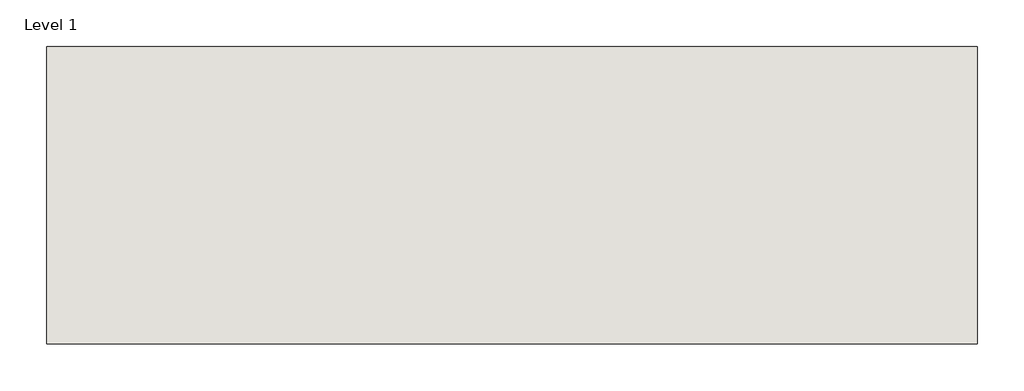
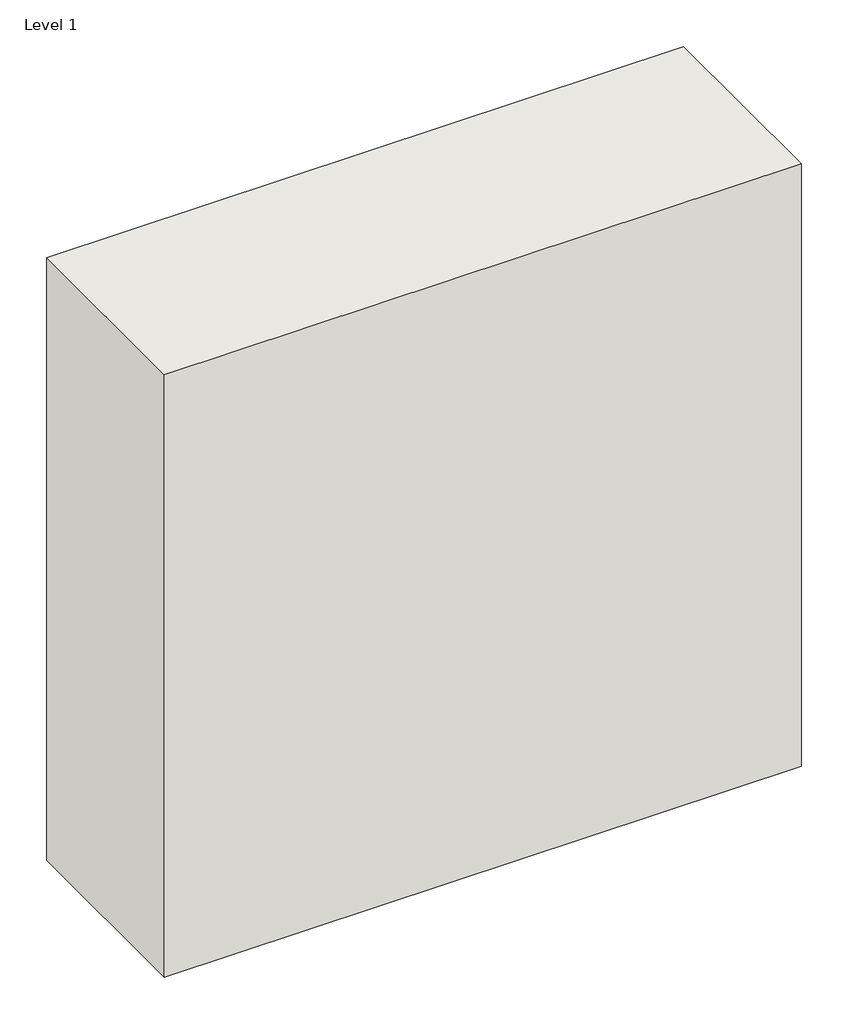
# One storey: 1 wall.
"""IFC4 building model written with IfcOpenShell, lengths in millimetres."""

from ifc_helpers import new_model, si_unit, origin, origin_with_axes, place, context, project, spatial, polyline, outline, extrude, element, save

model = new_model("IFC4")

# Units and contexts
model_context = context("Model", 3, world=origin())
ifc_project = project(units=[si_unit("LENGTHUNIT", "METRE", prefix="MILLI")], contexts=[model_context])

# Site, building, storey
site = spatial("IfcSite", under=ifc_project)
building = spatial("IfcBuilding", under=site)
storey = spatial("IfcBuildingStorey", under=building, Name="Level 1", Elevation=0.0)

# Wall
placement = place(None, origin())
element("IfcWall", 1, ObjectType="GYPTEC-REVESTIMENTO 95 BA13A + PRECERAM-PRO20", at=placement, inside=storey, context=model_context, shape_type="SweptSolid", body=[
    extrude(outline(polyline([(1000.0, -250.3485756), (0.0, -250.3485756), (0.0, 69.6514244), (1000.0, 69.6514244), (1000.0, -250.3485756)])), origin_with_axes(), (0.0, 0.0, 1.0), 1000.0),
])

save(model, "model.ifc")
